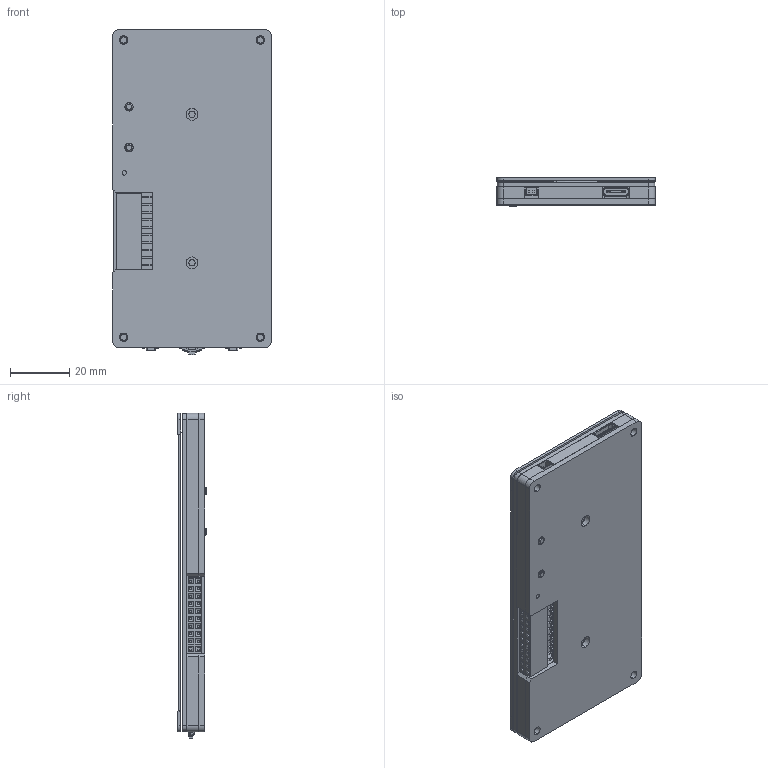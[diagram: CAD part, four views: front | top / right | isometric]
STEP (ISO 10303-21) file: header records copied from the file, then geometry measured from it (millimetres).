
FILE_DESCRIPTION((''),'2;1');
FILE_NAME('00-3-7_VIEW_ASM','2024-11-18T17:13:07',('DNZJ-104'),(''),'CREO PARAMETRIC BY PTC INC, 2022164','CREO PARAMETRIC BY PTC INC, 2022164','');
FILE_SCHEMA(('CONFIG_CONTROL_DESIGN'));
Products named in the file (58): 3_7-LCD; E037A48; 37-LCD-C; 3_7_PCB; XB-TM-2024A; BREP_61; BREP_62; BREP_63; KEY-579_ASM; TF; BREP_71; BOSS-EXTRUDE7_4__1_1; BOSS-EXTRUDE7_5__1_1; BOSS-EXTRUDE7_8__1_1; BOSS-EXTRUDE7_3__1_1; BOSS-EXTRUDE7_7__1_1; BOSS-EXTRUDE14_4__1_1; BOSS-EXTRUDE14_2__1_1; BOSS-EXTRUDE14_8__1_1; BOSS-EXTRUDE14_5__1_1; BOSS-EXTRUDE7_6__1_1; CHAMFER9_1_1; CUT-EXTRUDE5_1_1; MIRROR2_1_1; BOSS-EXTRUDE7_1__1_1; BOSS-EXTRUDE14_10__1_1; BOSS-EXTRUDE14_11__1_1; BOSS-EXTRUDE14_9__1_1; BOSS-EXTRUDE14_6__1_1; BOSS-EXTRUDE14_12__1_1; BOSS-EXTRUDE14_3__1_1; BOSS-EXTRUDE14_7__1_1; BOSS-EXTRUDE7_9__1_1; BOSS-EXTRUDE7_2__1_1; NONE_1_1_1; 9899277F-4995-40C0-B099-C6A92_1_ASM; TYPE_C_PORT_SMD_TYPE__ASM_2_1_ASM; BREP_77; BODY1_1_3_1; BODY2_1_1_1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
Assembly tree (66 placements, depth 4):
  00-3-7_VIEW_ASM
    3_7-LCD
    E037A48
    37-LCD-C
    3_7_PCB
    XB-TM-2024A
    KEY-579_ASM  x2
      BREP_61
      BREP_62
      BREP_63
    TF
    BREP_71
    TYPE_C_PORT_SMD_TYPE__ASM_2_1_ASM
      9899277F-4995-40C0-B099-C6A92_1_ASM
        BOSS-EXTRUDE7_4__1_1
        BOSS-EXTRUDE7_5__1_1
        BOSS-EXTRUDE7_8__1_1
        BOSS-EXTRUDE7_3__1_1
        BOSS-EXTRUDE7_7__1_1
        BOSS-EXTRUDE14_4__1_1
        BOSS-EXTRUDE14_2__1_1
        BOSS-EXTRUDE14_8__1_1
        BOSS-EXTRUDE14_5__1_1
        BOSS-EXTRUDE7_6__1_1
        CHAMFER9_1_1
        CUT-EXTRUDE5_1_1
        MIRROR2_1_1
        BOSS-EXTRUDE7_1__1_1
        BOSS-EXTRUDE14_10__1_1
        BOSS-EXTRUDE14_11__1_1
        BOSS-EXTRUDE14_9__1_1
        BOSS-EXTRUDE14_6__1_1
        BOSS-EXTRUDE14_12__1_1
        BOSS-EXTRUDE14_3__1_1
        BOSS-EXTRUDE14_7__1_1
        BOSS-EXTRUDE7_9__1_1
        BOSS-EXTRUDE7_2__1_1
        NONE_1_1_1
    BREP_77
    TACT_SWITCH_ASM_2_1_ASM  x2
      BODY1_1_3_1
      BODY2_1_1_1
      BODY3_1_1
      BODY4_1_1
      BODY5_1_1
      BODY6_1_1
      SMT_PIN_2_1_1
      SMT_PIN_4_1_1
      SMT_PIN_1_1_1
      SMT_PIN_3_1_1
    M2_5X3_5  x6
    X05A10H24X  x3
    NONE-0531
    37-PCB-CHECK
    37-MIDDLE-COVER
    37-BOTTOM_COVER
    37-PLANE
    37-CHECK-0717
Bounding box: 53.3 x 9.6 x 109.59 mm (x, y, z)
Volume: 45561.5 mm3; surface area: 73024.7 mm2
Topology: 72 solids, 72 shells, 6303 faces, 18014 edges, 11933 vertices
Faces by surface type: plane 4777, cylinder 1277, torus 129, sphere 54, bspline 30, extrusion 14, revolution 12, cone 10
Entity records: 155948 total; most frequent: CARTESIAN_POINT 30056, ORIENTED_EDGE 26760, DIRECTION 25099, EDGE_CURVE 13380, VECTOR 10911, LINE 10897, VERTEX_POINT 8843, AXIS2_PLACEMENT_3D 7088
